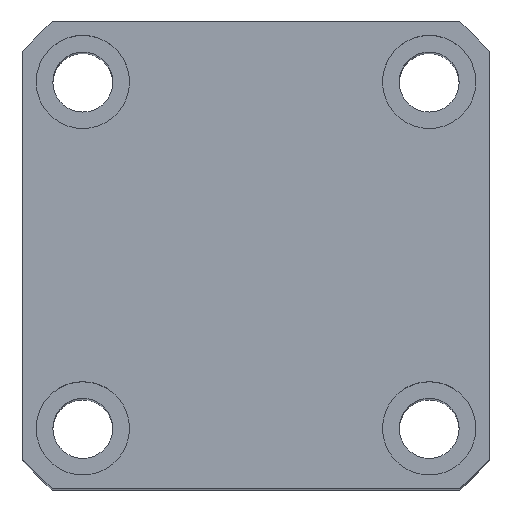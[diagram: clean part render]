
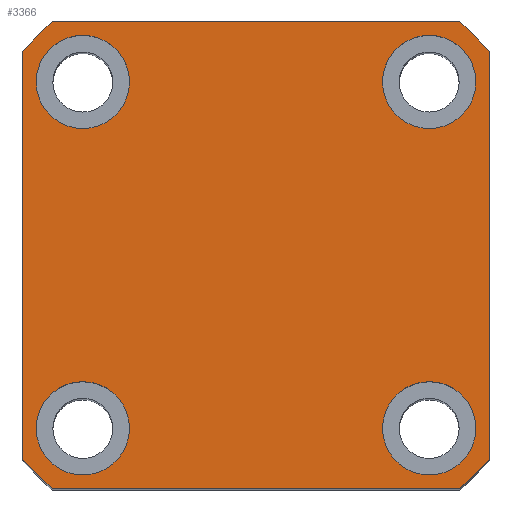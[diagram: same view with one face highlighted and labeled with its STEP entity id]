
A CAD part, top view. The second image highlights one B-rep face of the part: STEP entity #3366.
In plain terms, the highlighted planar face has unit normal (0, 0, 1).
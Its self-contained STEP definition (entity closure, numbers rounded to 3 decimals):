
#33 = AXIS2_PLACEMENT_3D ( 'NONE', #9556, #3218, #10623 ) ;
#72 = CIRCLE ( 'NONE', #10967, 46.5 ) ;
#141 = EDGE_LOOP ( 'NONE', ( #7014, #6190 ) ) ;
#488 = DIRECTION ( 'NONE',  ( -1., 0., 0. ) ) ;
#571 = EDGE_CURVE ( 'NONE', #12030, #3927, #1089, .T. ) ;
#622 = DIRECTION ( 'NONE',  ( 1., 0., 0. ) ) ;
#928 = EDGE_LOOP ( 'NONE', ( #6761, #1118 ) ) ;
#1013 = VERTEX_POINT ( 'NONE', #8830 ) ;
#1089 = LINE ( 'NONE', #10763, #3920 ) ;
#1118 = ORIENTED_EDGE ( 'NONE', *, *, #9371, .F. ) ;
#1319 = FACE_BOUND ( 'NONE', #141, .T. ) ;
#1380 = CARTESIAN_POINT ( 'NONE',  ( -19., -26., 150. ) ) ;
#1512 = AXIS2_PLACEMENT_3D ( 'NONE', #11097, #4767, #12136 ) ;
#1597 = VERTEX_POINT ( 'NONE', #9959 ) ;
#1726 = CARTESIAN_POINT ( 'NONE',  ( -26., 26., 150. ) ) ;
#1911 = CIRCLE ( 'NONE', #4276, 7. ) ;
#2078 = DIRECTION ( 'NONE',  ( 0., 0., 1. ) ) ;
#2343 = FACE_BOUND ( 'NONE', #13171, .T. ) ;
#2344 = CARTESIAN_POINT ( 'NONE',  ( 35., -30.615, 150. ) ) ;
#2465 = CARTESIAN_POINT ( 'NONE',  ( 26., 26., 150. ) ) ;
#2685 = CARTESIAN_POINT ( 'NONE',  ( 35., 35., 150. ) ) ;
#2794 = DIRECTION ( 'NONE',  ( 1., 0., 0. ) ) ;
#2845 = EDGE_CURVE ( 'NONE', #11385, #4000, #7144, .T. ) ;
#3063 = AXIS2_PLACEMENT_3D ( 'NONE', #3527, #10929, #4600 ) ;
#3181 = CARTESIAN_POINT ( 'NONE',  ( -30.615, -35., 150. ) ) ;
#3218 = DIRECTION ( 'NONE',  ( 0., 0., 1. ) ) ;
#3348 = VERTEX_POINT ( 'NONE', #1380 ) ;
#3351 = CARTESIAN_POINT ( 'NONE',  ( -26., -26., 150. ) ) ;
#3366 = ADVANCED_FACE ( 'NONE', ( #6973, #2343, #4152, #1319, #12896 ), #9861, .T. ) ;
#3371 = DIRECTION ( 'NONE',  ( 0., 0., 1. ) ) ;
#3408 = CARTESIAN_POINT ( 'NONE',  ( -35., 30.615, 150. ) ) ;
#3434 = AXIS2_PLACEMENT_3D ( 'NONE', #9708, #3371, #10774 ) ;
#3454 = CARTESIAN_POINT ( 'NONE',  ( 19., 26., 150. ) ) ;
#3455 = DIRECTION ( 'NONE',  ( 0., 0., 1. ) ) ;
#3521 = DIRECTION ( 'NONE',  ( 1., 0., 0. ) ) ;
#3527 = CARTESIAN_POINT ( 'NONE',  ( 0., 0., 150. ) ) ;
#3720 = VERTEX_POINT ( 'NONE', #6212 ) ;
#3920 = VECTOR ( 'NONE', #5522, 1000. ) ;
#3927 = VERTEX_POINT ( 'NONE', #10809 ) ;
#3997 = ORIENTED_EDGE ( 'NONE', *, *, #2845, .F. ) ;
#4000 = VERTEX_POINT ( 'NONE', #5568 ) ;
#4088 = CIRCLE ( 'NONE', #7122, 7. ) ;
#4102 = DIRECTION ( 'NONE',  ( 1., 0., 0. ) ) ;
#4133 = EDGE_LOOP ( 'NONE', ( #10062, #3997 ) ) ;
#4141 = AXIS2_PLACEMENT_3D ( 'NONE', #4492, #11858, #5577 ) ;
#4152 = FACE_BOUND ( 'NONE', #4133, .T. ) ;
#4186 = ORIENTED_EDGE ( 'NONE', *, *, #6704, .T. ) ;
#4212 = EDGE_CURVE ( 'NONE', #12183, #7194, #5151, .T. ) ;
#4271 = LINE ( 'NONE', #7920, #7091 ) ;
#4276 = AXIS2_PLACEMENT_3D ( 'NONE', #3351, #10755, #4422 ) ;
#4422 = DIRECTION ( 'NONE',  ( 1., 0., 0. ) ) ;
#4492 = CARTESIAN_POINT ( 'NONE',  ( 0., 0., 150. ) ) ;
#4600 = DIRECTION ( 'NONE',  ( 1., 0., 0. ) ) ;
#4657 = DIRECTION ( 'NONE',  ( 0., 0., 1. ) ) ;
#4682 = ORIENTED_EDGE ( 'NONE', *, *, #6666, .T. ) ;
#4704 = EDGE_LOOP ( 'NONE', ( #4186, #13495, #4682, #10481, #6844, #7669, #13294, #12463 ) ) ;
#4767 = DIRECTION ( 'NONE',  ( 0., 0., 1. ) ) ;
#4815 = CARTESIAN_POINT ( 'NONE',  ( -33., 26., 150. ) ) ;
#4841 = CARTESIAN_POINT ( 'NONE',  ( -30.615, 35., 150. ) ) ;
#5063 = CARTESIAN_POINT ( 'NONE',  ( -35., -35., 150. ) ) ;
#5110 = DIRECTION ( 'NONE',  ( 1., 0., 0. ) ) ;
#5151 = CIRCLE ( 'NONE', #12702, 7. ) ;
#5194 = EDGE_CURVE ( 'NONE', #3720, #11461, #11412, .T. ) ;
#5258 = EDGE_CURVE ( 'NONE', #3927, #11820, #8265, .T. ) ;
#5522 = DIRECTION ( 'NONE',  ( 0., -1., 0. ) ) ;
#5568 = CARTESIAN_POINT ( 'NONE',  ( 33., 26., 150. ) ) ;
#5577 = DIRECTION ( 'NONE',  ( 1., 0., 0. ) ) ;
#6019 = EDGE_CURVE ( 'NONE', #4000, #11385, #10085, .T. ) ;
#6051 = VERTEX_POINT ( 'NONE', #4841 ) ;
#6190 = ORIENTED_EDGE ( 'NONE', *, *, #4212, .F. ) ;
#6212 = CARTESIAN_POINT ( 'NONE',  ( 19., -26., 150. ) ) ;
#6435 = VECTOR ( 'NONE', #10098, 1000. ) ;
#6666 = EDGE_CURVE ( 'NONE', #10430, #6051, #4271, .T. ) ;
#6704 = EDGE_CURVE ( 'NONE', #13409, #1013, #9237, .T. ) ;
#6738 = CIRCLE ( 'NONE', #11115, 46.5 ) ;
#6761 = ORIENTED_EDGE ( 'NONE', *, *, #7493, .F. ) ;
#6844 = ORIENTED_EDGE ( 'NONE', *, *, #571, .T. ) ;
#6973 = FACE_BOUND ( 'NONE', #928, .T. ) ;
#6991 = DIRECTION ( 'NONE',  ( 0., 0., 1. ) ) ;
#7014 = ORIENTED_EDGE ( 'NONE', *, *, #11400, .F. ) ;
#7074 = LINE ( 'NONE', #5063, #12664 ) ;
#7091 = VECTOR ( 'NONE', #488, 1000. ) ;
#7122 = AXIS2_PLACEMENT_3D ( 'NONE', #13291, #6991, #622 ) ;
#7144 = CIRCLE ( 'NONE', #12091, 7. ) ;
#7194 = VERTEX_POINT ( 'NONE', #9620 ) ;
#7493 = EDGE_CURVE ( 'NONE', #3348, #1597, #8400, .T. ) ;
#7669 = ORIENTED_EDGE ( 'NONE', *, *, #5258, .T. ) ;
#7834 = EDGE_CURVE ( 'NONE', #11820, #11844, #7074, .T. ) ;
#7920 = CARTESIAN_POINT ( 'NONE',  ( -35., 35., 150. ) ) ;
#8265 = CIRCLE ( 'NONE', #4141, 46.5 ) ;
#8400 = CIRCLE ( 'NONE', #1512, 7. ) ;
#8422 = CARTESIAN_POINT ( 'NONE',  ( 26., 26., 150. ) ) ;
#8711 = CIRCLE ( 'NONE', #9868, 7. ) ;
#8830 = CARTESIAN_POINT ( 'NONE',  ( 35., 30.615, 150. ) ) ;
#9141 = DIRECTION ( 'NONE',  ( 0., 0., 1. ) ) ;
#9237 = LINE ( 'NONE', #2685, #6435 ) ;
#9371 = EDGE_CURVE ( 'NONE', #1597, #3348, #1911, .T. ) ;
#9479 = DIRECTION ( 'NONE',  ( 1., 0., 0. ) ) ;
#9556 = CARTESIAN_POINT ( 'NONE',  ( 0., 0., 150. ) ) ;
#9620 = CARTESIAN_POINT ( 'NONE',  ( -19., 26., 150. ) ) ;
#9708 = CARTESIAN_POINT ( 'NONE',  ( 26., -26., 150. ) ) ;
#9795 = CARTESIAN_POINT ( 'NONE',  ( 0., 0., 150. ) ) ;
#9856 = DIRECTION ( 'NONE',  ( 0., 0., 1. ) ) ;
#9861 = PLANE ( 'NONE',  #3063 ) ;
#9868 = AXIS2_PLACEMENT_3D ( 'NONE', #10981, #4657, #12016 ) ;
#9959 = CARTESIAN_POINT ( 'NONE',  ( -33., -26., 150. ) ) ;
#10057 = ORIENTED_EDGE ( 'NONE', *, *, #12876, .F. ) ;
#10062 = ORIENTED_EDGE ( 'NONE', *, *, #6019, .F. ) ;
#10085 = CIRCLE ( 'NONE', #11783, 7. ) ;
#10098 = DIRECTION ( 'NONE',  ( 0., 1., 0. ) ) ;
#10363 = CIRCLE ( 'NONE', #33, 46.5 ) ;
#10430 = VERTEX_POINT ( 'NONE', #11391 ) ;
#10481 = ORIENTED_EDGE ( 'NONE', *, *, #13534, .T. ) ;
#10582 = CARTESIAN_POINT ( 'NONE',  ( 30.615, -35., 150. ) ) ;
#10623 = DIRECTION ( 'NONE',  ( 1., 0., 0. ) ) ;
#10755 = DIRECTION ( 'NONE',  ( 0., 0., 1. ) ) ;
#10763 = CARTESIAN_POINT ( 'NONE',  ( -35., 35., 150. ) ) ;
#10774 = DIRECTION ( 'NONE',  ( 1., 0., 0. ) ) ;
#10809 = CARTESIAN_POINT ( 'NONE',  ( -35., -30.615, 150. ) ) ;
#10840 = CARTESIAN_POINT ( 'NONE',  ( 0., 0., 150. ) ) ;
#10854 = DIRECTION ( 'NONE',  ( 0., 0., 1. ) ) ;
#10856 = DIRECTION ( 'NONE',  ( 1., 0., 0. ) ) ;
#10929 = DIRECTION ( 'NONE',  ( 0., 0., 1. ) ) ;
#10967 = AXIS2_PLACEMENT_3D ( 'NONE', #10840, #10854, #4102 ) ;
#10981 = CARTESIAN_POINT ( 'NONE',  ( 26., -26., 150. ) ) ;
#11097 = CARTESIAN_POINT ( 'NONE',  ( -26., -26., 150. ) ) ;
#11115 = AXIS2_PLACEMENT_3D ( 'NONE', #9795, #3455, #10856 ) ;
#11192 = CARTESIAN_POINT ( 'NONE',  ( 33., -26., 150. ) ) ;
#11385 = VERTEX_POINT ( 'NONE', #3454 ) ;
#11391 = CARTESIAN_POINT ( 'NONE',  ( 30.615, 35., 150. ) ) ;
#11400 = EDGE_CURVE ( 'NONE', #7194, #12183, #4088, .T. ) ;
#11412 = CIRCLE ( 'NONE', #3434, 7. ) ;
#11461 = VERTEX_POINT ( 'NONE', #11192 ) ;
#11783 = AXIS2_PLACEMENT_3D ( 'NONE', #2465, #9856, #3521 ) ;
#11820 = VERTEX_POINT ( 'NONE', #3181 ) ;
#11844 = VERTEX_POINT ( 'NONE', #10582 ) ;
#11858 = DIRECTION ( 'NONE',  ( 0., 0., 1. ) ) ;
#12016 = DIRECTION ( 'NONE',  ( 1., 0., 0. ) ) ;
#12030 = VERTEX_POINT ( 'NONE', #3408 ) ;
#12051 = EDGE_CURVE ( 'NONE', #11844, #13409, #6738, .T. ) ;
#12091 = AXIS2_PLACEMENT_3D ( 'NONE', #8422, #2078, #9479 ) ;
#12136 = DIRECTION ( 'NONE',  ( 1., 0., 0. ) ) ;
#12183 = VERTEX_POINT ( 'NONE', #4815 ) ;
#12389 = ORIENTED_EDGE ( 'NONE', *, *, #5194, .F. ) ;
#12463 = ORIENTED_EDGE ( 'NONE', *, *, #12051, .T. ) ;
#12664 = VECTOR ( 'NONE', #5110, 1000. ) ;
#12702 = AXIS2_PLACEMENT_3D ( 'NONE', #1726, #9141, #2794 ) ;
#12876 = EDGE_CURVE ( 'NONE', #11461, #3720, #8711, .T. ) ;
#12896 = FACE_OUTER_BOUND ( 'NONE', #4704, .T. ) ;
#13171 = EDGE_LOOP ( 'NONE', ( #10057, #12389 ) ) ;
#13291 = CARTESIAN_POINT ( 'NONE',  ( -26., 26., 150. ) ) ;
#13294 = ORIENTED_EDGE ( 'NONE', *, *, #7834, .T. ) ;
#13409 = VERTEX_POINT ( 'NONE', #2344 ) ;
#13427 = EDGE_CURVE ( 'NONE', #1013, #10430, #72, .T. ) ;
#13495 = ORIENTED_EDGE ( 'NONE', *, *, #13427, .T. ) ;
#13534 = EDGE_CURVE ( 'NONE', #6051, #12030, #10363, .T. ) ;
